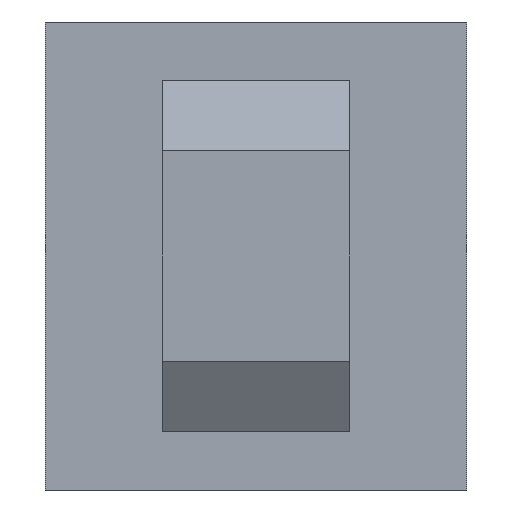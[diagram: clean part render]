
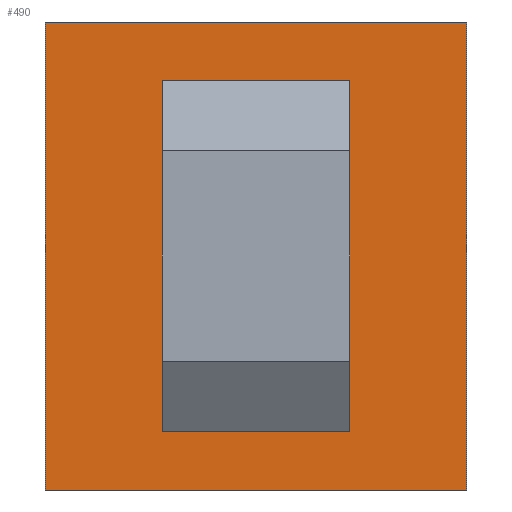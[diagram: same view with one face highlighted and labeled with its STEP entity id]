
A CAD part, left-side view. The second image highlights one B-rep face of the part: STEP entity #490.
In plain terms, the highlighted planar face has unit normal (-1, 0, 0).
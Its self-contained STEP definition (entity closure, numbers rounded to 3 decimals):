
#4 = VERTEX_POINT ( 'NONE', #918 ) ;
#25 = EDGE_CURVE ( 'NONE', #166, #941, #816, .T. ) ;
#34 = CARTESIAN_POINT ( 'NONE',  ( -11.5, 9., 10. ) ) ;
#71 = VERTEX_POINT ( 'NONE', #460 ) ;
#97 = CARTESIAN_POINT ( 'NONE',  ( -11.5, 9., 10. ) ) ;
#115 = AXIS2_PLACEMENT_3D ( 'NONE', #97, #1131, #1025 ) ;
#165 = CARTESIAN_POINT ( 'NONE',  ( -11.5, -4., 4. ) ) ;
#166 = VERTEX_POINT ( 'NONE', #394 ) ;
#170 = FACE_OUTER_BOUND ( 'NONE', #1049, .T. ) ;
#173 = CARTESIAN_POINT ( 'NONE',  ( -11.5, -4., -1. ) ) ;
#185 = ORIENTED_EDGE ( 'NONE', *, *, #381, .T. ) ;
#187 = CARTESIAN_POINT ( 'NONE',  ( -11.5, -1., -4. ) ) ;
#206 = PLANE ( 'NONE',  #115 ) ;
#208 = CARTESIAN_POINT ( 'NONE',  ( -11.5, 1., 4. ) ) ;
#222 = VECTOR ( 'NONE', #582, 1000. ) ;
#286 = CIRCLE ( 'NONE', #1017, 3. ) ;
#304 = CIRCLE ( 'NONE', #648, 3. ) ;
#306 = DIRECTION ( 'NONE',  ( 0., 0., -1. ) ) ;
#308 = ORIENTED_EDGE ( 'NONE', *, *, #443, .T. ) ;
#327 = VERTEX_POINT ( 'NONE', #208 ) ;
#341 = EDGE_CURVE ( 'NONE', #941, #376, #798, .T. ) ;
#365 = DIRECTION ( 'NONE',  ( 0., 1., 0. ) ) ;
#367 = EDGE_CURVE ( 'NONE', #166, #327, #304, .T. ) ;
#373 = VECTOR ( 'NONE', #647, 1000. ) ;
#376 = VERTEX_POINT ( 'NONE', #187 ) ;
#381 = EDGE_CURVE ( 'NONE', #327, #762, #803, .T. ) ;
#389 = ORIENTED_EDGE ( 'NONE', *, *, #341, .F. ) ;
#394 = CARTESIAN_POINT ( 'NONE',  ( -11.5, 4., 1. ) ) ;
#399 = EDGE_CURVE ( 'NONE', #4, #71, #850, .T. ) ;
#403 = DIRECTION ( 'NONE',  ( 0., -1., 0. ) ) ;
#411 = LINE ( 'NONE', #34, #629 ) ;
#443 = EDGE_CURVE ( 'NONE', #1046, #376, #286, .T. ) ;
#445 = CARTESIAN_POINT ( 'NONE',  ( -11.5, -9., 10. ) ) ;
#460 = CARTESIAN_POINT ( 'NONE',  ( -11.5, 9., -10. ) ) ;
#464 = ORIENTED_EDGE ( 'NONE', *, *, #673, .T. ) ;
#489 = VECTOR ( 'NONE', #306, 1000. ) ;
#490 = ADVANCED_FACE ( 'NONE', ( #760, #170 ), #206, .F. ) ;
#512 = DIRECTION ( 'NONE',  ( 1., 0., 0. ) ) ;
#519 = EDGE_CURVE ( 'NONE', #1046, #762, #844, .T. ) ;
#525 = DIRECTION ( 'NONE',  ( 0., 1., 0. ) ) ;
#529 = ORIENTED_EDGE ( 'NONE', *, *, #367, .T. ) ;
#548 = CARTESIAN_POINT ( 'NONE',  ( -11.5, 9., -10. ) ) ;
#578 = DIRECTION ( 'NONE',  ( 0., -1., 0. ) ) ;
#582 = DIRECTION ( 'NONE',  ( 0., -1., 0. ) ) ;
#597 = VERTEX_POINT ( 'NONE', #876 ) ;
#601 = DIRECTION ( 'NONE',  ( 0., 0., -1. ) ) ;
#602 = ORIENTED_EDGE ( 'NONE', *, *, #722, .F. ) ;
#629 = VECTOR ( 'NONE', #1063, 1000. ) ;
#634 = EDGE_LOOP ( 'NONE', ( #1077, #308, #389, #864, #529, #185 ) ) ;
#639 = DIRECTION ( 'NONE',  ( 0., 0., 1. ) ) ;
#642 = CARTESIAN_POINT ( 'NONE',  ( -11.5, 1., 1. ) ) ;
#647 = DIRECTION ( 'NONE',  ( 0., 0., -1. ) ) ;
#648 = AXIS2_PLACEMENT_3D ( 'NONE', #642, #512, #365 ) ;
#655 = DIRECTION ( 'NONE',  ( 1., 0., 0. ) ) ;
#671 = LINE ( 'NONE', #548, #1040 ) ;
#673 = EDGE_CURVE ( 'NONE', #71, #974, #671, .T. ) ;
#700 = CARTESIAN_POINT ( 'NONE',  ( -11.5, 9.001, -4. ) ) ;
#705 = CARTESIAN_POINT ( 'NONE',  ( -11.5, 9.001, 4. ) ) ;
#717 = CARTESIAN_POINT ( 'NONE',  ( -11.5, 4., -7.5 ) ) ;
#722 = EDGE_CURVE ( 'NONE', #597, #974, #806, .T. ) ;
#748 = CARTESIAN_POINT ( 'NONE',  ( -11.5, -4., -7.5 ) ) ;
#756 = CARTESIAN_POINT ( 'NONE',  ( -11.5, 9., 10. ) ) ;
#760 = FACE_BOUND ( 'NONE', #634, .T. ) ;
#762 = VERTEX_POINT ( 'NONE', #165 ) ;
#780 = VECTOR ( 'NONE', #639, 1000. ) ;
#798 = LINE ( 'NONE', #700, #1026 ) ;
#799 = EDGE_CURVE ( 'NONE', #4, #597, #411, .T. ) ;
#803 = LINE ( 'NONE', #705, #222 ) ;
#806 = LINE ( 'NONE', #445, #489 ) ;
#812 = CARTESIAN_POINT ( 'NONE',  ( -11.5, 4., -4. ) ) ;
#816 = LINE ( 'NONE', #717, #1044 ) ;
#844 = LINE ( 'NONE', #748, #780 ) ;
#850 = LINE ( 'NONE', #756, #373 ) ;
#864 = ORIENTED_EDGE ( 'NONE', *, *, #25, .F. ) ;
#876 = CARTESIAN_POINT ( 'NONE',  ( -11.5, -9., 10. ) ) ;
#918 = CARTESIAN_POINT ( 'NONE',  ( -11.5, 9., 10. ) ) ;
#941 = VERTEX_POINT ( 'NONE', #812 ) ;
#961 = ORIENTED_EDGE ( 'NONE', *, *, #799, .F. ) ;
#974 = VERTEX_POINT ( 'NONE', #1016 ) ;
#1016 = CARTESIAN_POINT ( 'NONE',  ( -11.5, -9., -10. ) ) ;
#1017 = AXIS2_PLACEMENT_3D ( 'NONE', #1067, #655, #525 ) ;
#1025 = DIRECTION ( 'NONE',  ( 0., 1., 0. ) ) ;
#1026 = VECTOR ( 'NONE', #578, 1000. ) ;
#1040 = VECTOR ( 'NONE', #403, 1000. ) ;
#1044 = VECTOR ( 'NONE', #601, 1000. ) ;
#1046 = VERTEX_POINT ( 'NONE', #173 ) ;
#1049 = EDGE_LOOP ( 'NONE', ( #464, #602, #961, #1106 ) ) ;
#1063 = DIRECTION ( 'NONE',  ( 0., -1., 0. ) ) ;
#1067 = CARTESIAN_POINT ( 'NONE',  ( -11.5, -1., -1. ) ) ;
#1077 = ORIENTED_EDGE ( 'NONE', *, *, #519, .F. ) ;
#1106 = ORIENTED_EDGE ( 'NONE', *, *, #399, .T. ) ;
#1131 = DIRECTION ( 'NONE',  ( 1., 0., 0. ) ) ;
